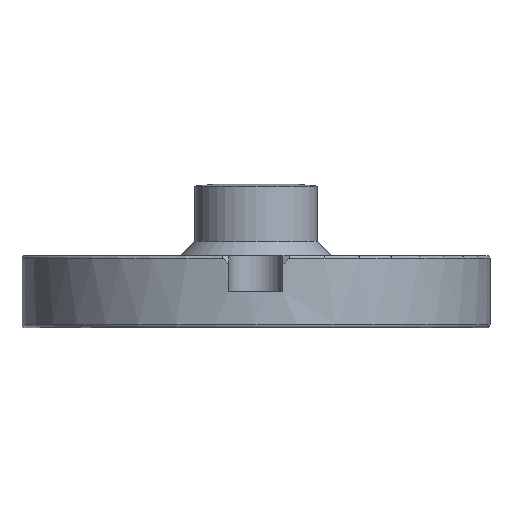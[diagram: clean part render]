
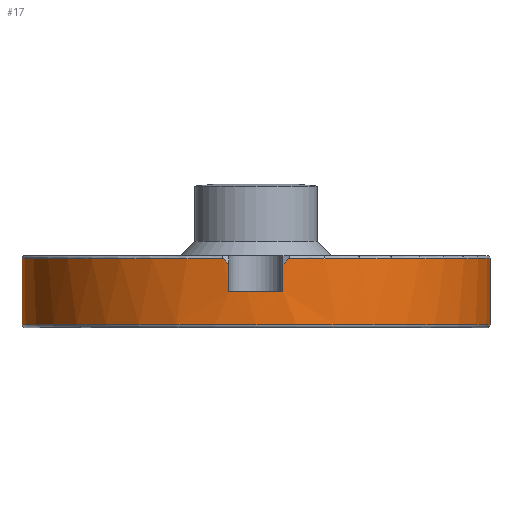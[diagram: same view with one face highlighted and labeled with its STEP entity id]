
A CAD part, front view. The second image highlights one B-rep face of the part: STEP entity #17.
In plain terms, the highlighted cylindrical face has radius 41.275 mm (diameter 82.55 mm), a partial arc.
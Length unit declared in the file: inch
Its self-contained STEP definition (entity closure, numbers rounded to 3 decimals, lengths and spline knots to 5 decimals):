
#2 = DIRECTION ( 'NONE',  ( -1., 0., 0. ) ) ;
#5 = CARTESIAN_POINT ( 'NONE',  ( 0., 0., 0.053 ) ) ;
#17 = ADVANCED_FACE ( 'NONE', ( #1572 ), #776, .T. ) ;
#64 =( BOUNDED_CURVE ( )  B_SPLINE_CURVE ( 3, ( #975, #669, #679, #1439 ),
 .UNSPECIFIED., .F., .F. ) 
 B_SPLINE_CURVE_WITH_KNOTS ( ( 4, 4 ),
 ( 5.42442, 5.44916 ),
 .UNSPECIFIED. ) 
 CURVE ( )  GEOMETRIC_REPRESENTATION_ITEM ( )  RATIONAL_B_SPLINE_CURVE ( ( 1., 1., 1., 1. ) ) 
 REPRESENTATION_ITEM ( '' )  );
#95 = CIRCLE ( 'NONE', #1666, 1.625 ) ;
#129 = DIRECTION ( 'NONE',  ( 0., 0., 1. ) ) ;
#152 = VECTOR ( 'NONE', #729, 39.37008 ) ;
#194 = AXIS2_PLACEMENT_3D ( 'NONE', #1495, #129, #2 ) ;
#281 = CARTESIAN_POINT ( 'NONE',  ( -0.1875, -1.61415, 0.243 ) ) ;
#283 = CARTESIAN_POINT ( 'NONE',  ( -0.22738, -1.60901, 0.283 ) ) ;
#320 = ORIENTED_EDGE ( 'NONE', *, *, #1118, .F. ) ;
#352 = CARTESIAN_POINT ( 'NONE',  ( 0., 0., 0.283 ) ) ;
#386 = CIRCLE ( 'NONE', #1913, 1.625 ) ;
#403 = EDGE_CURVE ( 'NONE', #411, #1068, #657, .T. ) ;
#406 = CARTESIAN_POINT ( 'NONE',  ( -0.21411, -1.61089, 0.26952 ) ) ;
#411 = VERTEX_POINT ( 'NONE', #1357 ) ;
#441 = CARTESIAN_POINT ( 'NONE',  ( 1.625, 0., 0.283 ) ) ;
#464 = ORIENTED_EDGE ( 'NONE', *, *, #690, .T. ) ;
#470 = ORIENTED_EDGE ( 'NONE', *, *, #1193, .T. ) ;
#474 = LINE ( 'NONE', #1324, #152 ) ;
#493 = DIRECTION ( 'NONE',  ( 0., 0., -1. ) ) ;
#558 = CARTESIAN_POINT ( 'NONE',  ( -0.1875, -1.61415, 0.243 ) ) ;
#563 = ORIENTED_EDGE ( 'NONE', *, *, #403, .T. ) ;
#573 = CARTESIAN_POINT ( 'NONE',  ( -0.20082, -1.6126, 0.25619 ) ) ;
#601 = VERTEX_POINT ( 'NONE', #1511 ) ;
#612 = CARTESIAN_POINT ( 'NONE',  ( 0.1875, -1.61415, 0.053 ) ) ;
#642 = DIRECTION ( 'NONE',  ( 1., 0., 0. ) ) ;
#657 = LINE ( 'NONE', #1810, #1533 ) ;
#669 = CARTESIAN_POINT ( 'NONE',  ( 0.21411, -1.61089, 0.26952 ) ) ;
#674 = ORIENTED_EDGE ( 'NONE', *, *, #1621, .T. ) ;
#679 = CARTESIAN_POINT ( 'NONE',  ( 0.20082, -1.6126, 0.25619 ) ) ;
#690 = EDGE_CURVE ( 'NONE', #853, #1568, #1552, .T. ) ;
#703 = CARTESIAN_POINT ( 'NONE',  ( 1.625, 0., 0.153 ) ) ;
#720 = DIRECTION ( 'NONE',  ( 0., 0., -1. ) ) ;
#729 = DIRECTION ( 'NONE',  ( 0., 0., -1. ) ) ;
#751 = EDGE_CURVE ( 'NONE', #1101, #1120, #95, .T. ) ;
#762 = ORIENTED_EDGE ( 'NONE', *, *, #1328, .F. ) ;
#776 = CYLINDRICAL_SURFACE ( 'NONE', #796, 1.625 ) ;
#796 = AXIS2_PLACEMENT_3D ( 'NONE', #1718, #1706, #1551 ) ;
#830 = EDGE_CURVE ( 'NONE', #1692, #1824, #891, .T. ) ;
#839 = DIRECTION ( 'NONE',  ( 0., 0., -1. ) ) ;
#853 = VERTEX_POINT ( 'NONE', #1039 ) ;
#891 = CIRCLE ( 'NONE', #194, 1.625 ) ;
#906 = DIRECTION ( 'NONE',  ( 0., 0., -1. ) ) ;
#911 = CARTESIAN_POINT ( 'NONE',  ( 1.625, 0., -0.177 ) ) ;
#932 = EDGE_LOOP ( 'NONE', ( #1748, #1707, #470, #563, #320, #464, #762, #1628, #674, #982 ) ) ;
#975 = CARTESIAN_POINT ( 'NONE',  ( 0.22738, -1.60901, 0.283 ) ) ;
#982 = ORIENTED_EDGE ( 'NONE', *, *, #830, .T. ) ;
#1039 = CARTESIAN_POINT ( 'NONE',  ( -0.1875, -1.61415, 0.053 ) ) ;
#1045 = CARTESIAN_POINT ( 'NONE',  ( 0., 0., 0.283 ) ) ;
#1050 = CARTESIAN_POINT ( 'NONE',  ( 0.22738, -1.60901, 0.283 ) ) ;
#1068 = VERTEX_POINT ( 'NONE', #612 ) ;
#1101 = VERTEX_POINT ( 'NONE', #441 ) ;
#1118 = EDGE_CURVE ( 'NONE', #853, #1068, #1333, .T. ) ;
#1120 = VERTEX_POINT ( 'NONE', #1050 ) ;
#1193 = EDGE_CURVE ( 'NONE', #1120, #411, #64, .T. ) ;
#1249 = CARTESIAN_POINT ( 'NONE',  ( -1.625, 0., 0.283 ) ) ;
#1324 = CARTESIAN_POINT ( 'NONE',  ( -1.625, 0., 0.153 ) ) ;
#1328 = EDGE_CURVE ( 'NONE', #601, #1568, #1398, .T. ) ;
#1333 = CIRCLE ( 'NONE', #1885, 1.625 ) ;
#1337 = DIRECTION ( 'NONE',  ( 0., 0., 1. ) ) ;
#1341 = CARTESIAN_POINT ( 'NONE',  ( -1.625, 0., -0.177 ) ) ;
#1357 = CARTESIAN_POINT ( 'NONE',  ( 0.1875, -1.61415, 0.243 ) ) ;
#1398 =( BOUNDED_CURVE ( )  B_SPLINE_CURVE ( 3, ( #283, #406, #573, #558 ),
 .UNSPECIFIED., .F., .F. ) 
 B_SPLINE_CURVE_WITH_KNOTS ( ( 4, 4 ),
 ( 5.42442, 5.44916 ),
 .UNSPECIFIED. ) 
 CURVE ( )  GEOMETRIC_REPRESENTATION_ITEM ( )  RATIONAL_B_SPLINE_CURVE ( ( 1., 1., 1., 1. ) ) 
 REPRESENTATION_ITEM ( '' )  );
#1426 = LINE ( 'NONE', #703, #1866 ) ;
#1439 = CARTESIAN_POINT ( 'NONE',  ( 0.1875, -1.61415, 0.243 ) ) ;
#1441 = CARTESIAN_POINT ( 'NONE',  ( -0.1875, -1.61415, 0.153 ) ) ;
#1482 = EDGE_CURVE ( 'NONE', #1101, #1824, #1426, .T. ) ;
#1495 = CARTESIAN_POINT ( 'NONE',  ( 0., 0., -0.177 ) ) ;
#1501 = DIRECTION ( 'NONE',  ( 1., 0., 0. ) ) ;
#1511 = CARTESIAN_POINT ( 'NONE',  ( -0.22738, -1.60901, 0.283 ) ) ;
#1533 = VECTOR ( 'NONE', #906, 39.37008 ) ;
#1551 = DIRECTION ( 'NONE',  ( -1., 0., 0. ) ) ;
#1552 = LINE ( 'NONE', #1441, #1902 ) ;
#1568 = VERTEX_POINT ( 'NONE', #281 ) ;
#1572 = FACE_OUTER_BOUND ( 'NONE', #932, .T. ) ;
#1621 = EDGE_CURVE ( 'NONE', #1916, #1692, #474, .T. ) ;
#1628 = ORIENTED_EDGE ( 'NONE', *, *, #1868, .T. ) ;
#1666 = AXIS2_PLACEMENT_3D ( 'NONE', #1045, #720, #1501 ) ;
#1692 = VERTEX_POINT ( 'NONE', #1341 ) ;
#1706 = DIRECTION ( 'NONE',  ( 0., 0., -1. ) ) ;
#1707 = ORIENTED_EDGE ( 'NONE', *, *, #751, .T. ) ;
#1718 = CARTESIAN_POINT ( 'NONE',  ( 0., 0., 0.153 ) ) ;
#1747 = DIRECTION ( 'NONE',  ( 0., 0., 1. ) ) ;
#1748 = ORIENTED_EDGE ( 'NONE', *, *, #1482, .F. ) ;
#1810 = CARTESIAN_POINT ( 'NONE',  ( 0.1875, -1.61415, 0.153 ) ) ;
#1824 = VERTEX_POINT ( 'NONE', #911 ) ;
#1866 = VECTOR ( 'NONE', #839, 39.37008 ) ;
#1868 = EDGE_CURVE ( 'NONE', #601, #1916, #386, .T. ) ;
#1885 = AXIS2_PLACEMENT_3D ( 'NONE', #5, #1337, #1954 ) ;
#1902 = VECTOR ( 'NONE', #1747, 39.37008 ) ;
#1913 = AXIS2_PLACEMENT_3D ( 'NONE', #352, #493, #642 ) ;
#1916 = VERTEX_POINT ( 'NONE', #1249 ) ;
#1954 = DIRECTION ( 'NONE',  ( 1., 0., 0. ) ) ;
